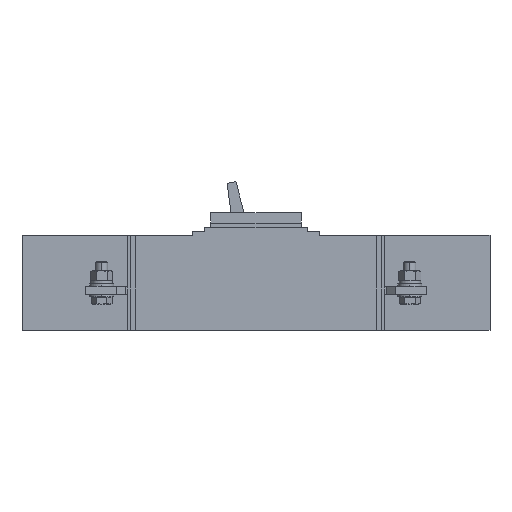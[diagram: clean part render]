
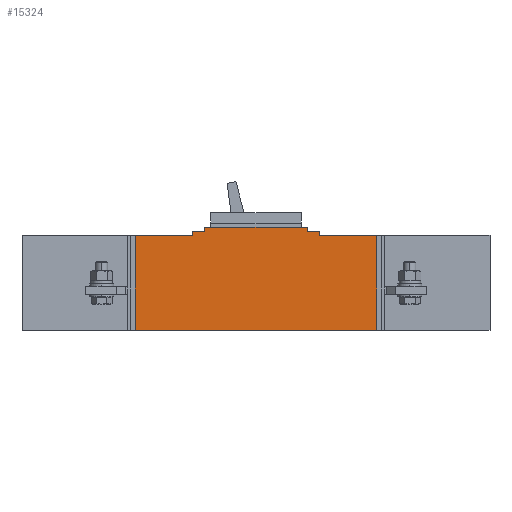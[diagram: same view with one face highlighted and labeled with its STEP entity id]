
A CAD part, left-side view. The second image highlights one B-rep face of the part: STEP entity #15324.
In plain terms, the highlighted planar face has unit normal (-1, 0, 0).
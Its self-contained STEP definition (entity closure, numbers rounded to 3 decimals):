
#113 = DIRECTION ( 'NONE',  ( 0., 1., 0. ) ) ;
#461 = DIRECTION ( 'NONE',  ( 0., -1., 0. ) ) ;
#498 = CARTESIAN_POINT ( 'NONE',  ( -70., 158.5, 103. ) ) ;
#803 = VECTOR ( 'NONE', #15112, 1000. ) ;
#862 = VECTOR ( 'NONE', #9508, 1000. ) ;
#940 = VERTEX_POINT ( 'NONE', #4997 ) ;
#1071 = CARTESIAN_POINT ( 'NONE',  ( -70., 56.5, 103. ) ) ;
#1214 = CARTESIAN_POINT ( 'NONE',  ( -70., 0., 103. ) ) ;
#1285 = ORIENTED_EDGE ( 'NONE', *, *, #5556, .F. ) ;
#1287 = EDGE_CURVE ( 'NONE', #940, #12073, #12914, .T. ) ;
#1448 = CARTESIAN_POINT ( 'NONE',  ( -70., -21., 0. ) ) ;
#1542 = CARTESIAN_POINT ( 'NONE',  ( -70., 0., 98.5 ) ) ;
#1658 = DIRECTION ( 'NONE',  ( 1., 0., 0. ) ) ;
#1728 = VECTOR ( 'NONE', #1753, 1000. ) ;
#1753 = DIRECTION ( 'NONE',  ( 0., -1., 0. ) ) ;
#1803 = VERTEX_POINT ( 'NONE', #7469 ) ;
#2143 = EDGE_CURVE ( 'NONE', #6642, #4625, #6821, .T. ) ;
#2338 = VECTOR ( 'NONE', #11813, 1000. ) ;
#2372 = VECTOR ( 'NONE', #113, 1000. ) ;
#2481 = CARTESIAN_POINT ( 'NONE',  ( -70., 171., 94.5 ) ) ;
#2544 = VECTOR ( 'NONE', #11307, 1000. ) ;
#2693 = FACE_OUTER_BOUND ( 'NONE', #3310, .T. ) ;
#3310 = EDGE_LOOP ( 'NONE', ( #6228, #11674, #1285, #9710, #8100, #5107, #4893, #10438, #14901, #4243, #7423, #12414 ) ) ;
#3601 = EDGE_CURVE ( 'NONE', #12073, #10997, #7763, .T. ) ;
#3602 = VERTEX_POINT ( 'NONE', #13638 ) ;
#3700 = DIRECTION ( 'NONE',  ( 0., 0., -1. ) ) ;
#3875 = CARTESIAN_POINT ( 'NONE',  ( -70., 0., 98.5 ) ) ;
#4099 = VECTOR ( 'NONE', #4157, 1000. ) ;
#4145 = VERTEX_POINT ( 'NONE', #14063 ) ;
#4157 = DIRECTION ( 'NONE',  ( 0., -1., 0. ) ) ;
#4233 = LINE ( 'NONE', #1542, #4099 ) ;
#4243 = ORIENTED_EDGE ( 'NONE', *, *, #13576, .T. ) ;
#4625 = VERTEX_POINT ( 'NONE', #2481 ) ;
#4694 = EDGE_CURVE ( 'NONE', #13335, #7179, #14354, .T. ) ;
#4893 = ORIENTED_EDGE ( 'NONE', *, *, #9447, .F. ) ;
#4997 = CARTESIAN_POINT ( 'NONE',  ( -70., 44., 98.5 ) ) ;
#5035 = LINE ( 'NONE', #6212, #11843 ) ;
#5107 = ORIENTED_EDGE ( 'NONE', *, *, #6203, .F. ) ;
#5230 = CARTESIAN_POINT ( 'NONE',  ( -70., 0., 94.5 ) ) ;
#5556 = EDGE_CURVE ( 'NONE', #10275, #940, #4233, .T. ) ;
#5839 = CARTESIAN_POINT ( 'NONE',  ( -70., -13., 94.5 ) ) ;
#6203 = EDGE_CURVE ( 'NONE', #3602, #13335, #14948, .T. ) ;
#6212 = CARTESIAN_POINT ( 'NONE',  ( -70., 171., 0. ) ) ;
#6220 = LINE ( 'NONE', #14704, #15236 ) ;
#6228 = ORIENTED_EDGE ( 'NONE', *, *, #3601, .F. ) ;
#6469 = CARTESIAN_POINT ( 'NONE',  ( -70., 158.5, 0. ) ) ;
#6642 = VERTEX_POINT ( 'NONE', #11941 ) ;
#6821 = LINE ( 'NONE', #11659, #2338 ) ;
#6897 = CARTESIAN_POINT ( 'NONE',  ( -70., 228., 94.5 ) ) ;
#7069 = DIRECTION ( 'NONE',  ( 0., -1., 0. ) ) ;
#7156 = VERTEX_POINT ( 'NONE', #8124 ) ;
#7179 = VERTEX_POINT ( 'NONE', #1071 ) ;
#7423 = ORIENTED_EDGE ( 'NONE', *, *, #10279, .F. ) ;
#7433 = LINE ( 'NONE', #3875, #15593 ) ;
#7438 = CARTESIAN_POINT ( 'NONE',  ( -70., 0., 0. ) ) ;
#7464 = CARTESIAN_POINT ( 'NONE',  ( -70., 56.5, 98.5 ) ) ;
#7469 = CARTESIAN_POINT ( 'NONE',  ( -70., 228., 0. ) ) ;
#7763 = LINE ( 'NONE', #5230, #1728 ) ;
#8100 = ORIENTED_EDGE ( 'NONE', *, *, #4694, .F. ) ;
#8124 = CARTESIAN_POINT ( 'NONE',  ( -70., -13., 0. ) ) ;
#8911 = DIRECTION ( 'NONE',  ( 0., 0., 1. ) ) ;
#8968 = CARTESIAN_POINT ( 'NONE',  ( -70., 44., 94.5 ) ) ;
#9447 = EDGE_CURVE ( 'NONE', #4145, #3602, #7433, .T. ) ;
#9508 = DIRECTION ( 'NONE',  ( 0., 0., -1. ) ) ;
#9555 = VECTOR ( 'NONE', #10979, 1000. ) ;
#9710 = ORIENTED_EDGE ( 'NONE', *, *, #14435, .F. ) ;
#9779 = LINE ( 'NONE', #11280, #9555 ) ;
#9814 = DIRECTION ( 'NONE',  ( 0., 0., -1. ) ) ;
#9866 = EDGE_CURVE ( 'NONE', #10997, #7156, #9779, .T. ) ;
#9888 = EDGE_CURVE ( 'NONE', #4625, #4145, #5035, .T. ) ;
#10045 = AXIS2_PLACEMENT_3D ( 'NONE', #7438, #1658, #9814 ) ;
#10275 = VERTEX_POINT ( 'NONE', #7464 ) ;
#10279 = EDGE_CURVE ( 'NONE', #7156, #1803, #12147, .T. ) ;
#10291 = CARTESIAN_POINT ( 'NONE',  ( -70., 44., 0. ) ) ;
#10438 = ORIENTED_EDGE ( 'NONE', *, *, #9888, .F. ) ;
#10979 = DIRECTION ( 'NONE',  ( 0., 0., -1. ) ) ;
#10997 = VERTEX_POINT ( 'NONE', #5839 ) ;
#11155 = PLANE ( 'NONE',  #10045 ) ;
#11280 = CARTESIAN_POINT ( 'NONE',  ( -70., -13., 0. ) ) ;
#11307 = DIRECTION ( 'NONE',  ( 0., 0., 1. ) ) ;
#11659 = CARTESIAN_POINT ( 'NONE',  ( -70., 0., 94.5 ) ) ;
#11674 = ORIENTED_EDGE ( 'NONE', *, *, #1287, .F. ) ;
#11813 = DIRECTION ( 'NONE',  ( 0., -1., 0. ) ) ;
#11824 = VECTOR ( 'NONE', #7069, 1000. ) ;
#11843 = VECTOR ( 'NONE', #8911, 1000. ) ;
#11941 = CARTESIAN_POINT ( 'NONE',  ( -70., 228., 94.5 ) ) ;
#12073 = VERTEX_POINT ( 'NONE', #8968 ) ;
#12147 = LINE ( 'NONE', #1448, #2372 ) ;
#12414 = ORIENTED_EDGE ( 'NONE', *, *, #9866, .F. ) ;
#12914 = LINE ( 'NONE', #10291, #803 ) ;
#13335 = VERTEX_POINT ( 'NONE', #498 ) ;
#13576 = EDGE_CURVE ( 'NONE', #6642, #1803, #14415, .T. ) ;
#13638 = CARTESIAN_POINT ( 'NONE',  ( -70., 158.5, 98.5 ) ) ;
#14063 = CARTESIAN_POINT ( 'NONE',  ( -70., 171., 98.5 ) ) ;
#14354 = LINE ( 'NONE', #1214, #11824 ) ;
#14415 = LINE ( 'NONE', #6897, #862 ) ;
#14435 = EDGE_CURVE ( 'NONE', #7179, #10275, #6220, .T. ) ;
#14704 = CARTESIAN_POINT ( 'NONE',  ( -70., 56.5, 0. ) ) ;
#14901 = ORIENTED_EDGE ( 'NONE', *, *, #2143, .F. ) ;
#14948 = LINE ( 'NONE', #6469, #2544 ) ;
#15112 = DIRECTION ( 'NONE',  ( 0., 0., -1. ) ) ;
#15236 = VECTOR ( 'NONE', #3700, 1000. ) ;
#15324 = ADVANCED_FACE ( 'NONE', ( #2693 ), #11155, .F. ) ;
#15593 = VECTOR ( 'NONE', #461, 1000. ) ;
